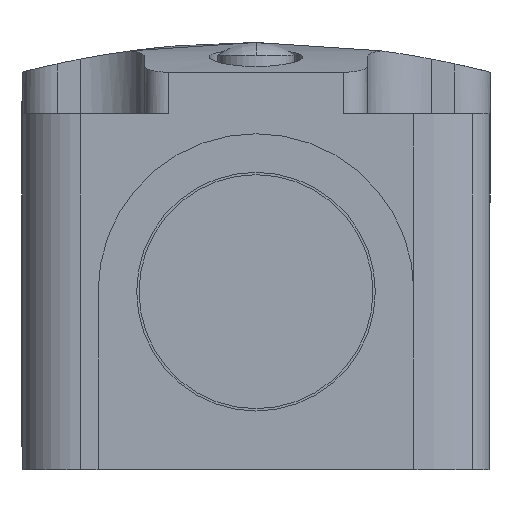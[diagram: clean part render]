
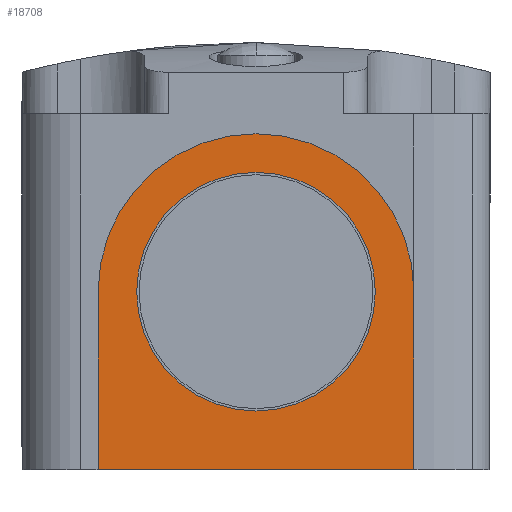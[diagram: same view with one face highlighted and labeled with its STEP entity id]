
A CAD part, front view. The second image highlights one B-rep face of the part: STEP entity #18708.
In plain terms, the highlighted planar face has unit normal (0, -1, 0).
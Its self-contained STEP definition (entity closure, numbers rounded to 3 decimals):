
#205 = FACE_OUTER_BOUND ( 'NONE', #902, .T. ) ;
#833 = LINE ( 'NONE', #14094, #8708 ) ;
#902 = EDGE_LOOP ( 'NONE', ( #10387, #8051, #11427, #17517, #8619 ) ) ;
#1192 = VERTEX_POINT ( 'NONE', #10910 ) ;
#1400 = AXIS2_PLACEMENT_3D ( 'NONE', #13389, #11948, #6315 ) ;
#2093 = CARTESIAN_POINT ( 'NONE',  ( 0., -36.2, -13.5 ) ) ;
#2541 = CARTESIAN_POINT ( 'NONE',  ( 13.5, -36.2, 15.2 ) ) ;
#2928 = CIRCLE ( 'NONE', #1400, 13.5 ) ;
#3239 = ORIENTED_EDGE ( 'NONE', *, *, #17398, .F. ) ;
#3241 = CARTESIAN_POINT ( 'NONE',  ( 13.5, -36.2, -21.3 ) ) ;
#3703 = AXIS2_PLACEMENT_3D ( 'NONE', #5933, #6122, #16139 ) ;
#3748 = CARTESIAN_POINT ( 'NONE',  ( -13.5, -36.2, 15.2 ) ) ;
#3783 = LINE ( 'NONE', #9590, #10507 ) ;
#3845 = VERTEX_POINT ( 'NONE', #3748 ) ;
#4034 = EDGE_CURVE ( 'NONE', #8348, #13821, #7289, .T. ) ;
#4420 = AXIS2_PLACEMENT_3D ( 'NONE', #18178, #12561, #10840 ) ;
#4512 = DIRECTION ( 'NONE',  ( 0., 1., 0. ) ) ;
#4605 = VERTEX_POINT ( 'NONE', #9414 ) ;
#5933 = CARTESIAN_POINT ( 'NONE',  ( -13.5, -36.2, -21.3 ) ) ;
#6122 = DIRECTION ( 'NONE',  ( 0., -1., 0. ) ) ;
#6315 = DIRECTION ( 'NONE',  ( 0., 0., -1. ) ) ;
#7289 = CIRCLE ( 'NONE', #10035, 13.5 ) ;
#7466 = AXIS2_PLACEMENT_3D ( 'NONE', #18344, #8331, #12735 ) ;
#7734 = CARTESIAN_POINT ( 'NONE',  ( 0., -36.2, 0. ) ) ;
#8051 = ORIENTED_EDGE ( 'NONE', *, *, #11475, .T. ) ;
#8331 = DIRECTION ( 'NONE',  ( 0., -1., 0. ) ) ;
#8348 = VERTEX_POINT ( 'NONE', #11328 ) ;
#8619 = ORIENTED_EDGE ( 'NONE', *, *, #11117, .F. ) ;
#8708 = VECTOR ( 'NONE', #16670, 1000. ) ;
#8972 = DIRECTION ( 'NONE',  ( 0., 0., -1. ) ) ;
#9058 = DIRECTION ( 'NONE',  ( 0., 0., 1. ) ) ;
#9414 = CARTESIAN_POINT ( 'NONE',  ( -13.5, -36.2, 0. ) ) ;
#9590 = CARTESIAN_POINT ( 'NONE',  ( -13.5, -36.2, 15.2 ) ) ;
#10035 = AXIS2_PLACEMENT_3D ( 'NONE', #7734, #4512, #8972 ) ;
#10387 = ORIENTED_EDGE ( 'NONE', *, *, #4034, .F. ) ;
#10507 = VECTOR ( 'NONE', #15409, 1000. ) ;
#10840 = DIRECTION ( 'NONE',  ( 0., 0., -1. ) ) ;
#10910 = CARTESIAN_POINT ( 'NONE',  ( 0., -36.2, 10.2 ) ) ;
#11117 = EDGE_CURVE ( 'NONE', #13821, #4605, #2928, .T. ) ;
#11292 = VERTEX_POINT ( 'NONE', #17548 ) ;
#11328 = CARTESIAN_POINT ( 'NONE',  ( 13.5, -36.2, 0. ) ) ;
#11427 = ORIENTED_EDGE ( 'NONE', *, *, #16931, .F. ) ;
#11475 = EDGE_CURVE ( 'NONE', #8348, #11923, #16311, .T. ) ;
#11923 = VERTEX_POINT ( 'NONE', #2541 ) ;
#11948 = DIRECTION ( 'NONE',  ( 0., 1., 0. ) ) ;
#12250 = EDGE_LOOP ( 'NONE', ( #17665, #3239 ) ) ;
#12338 = CIRCLE ( 'NONE', #4420, 10.2 ) ;
#12561 = DIRECTION ( 'NONE',  ( 0., -1., 0. ) ) ;
#12669 = EDGE_CURVE ( 'NONE', #4605, #3845, #833, .T. ) ;
#12735 = DIRECTION ( 'NONE',  ( 0., 0., -1. ) ) ;
#13389 = CARTESIAN_POINT ( 'NONE',  ( 0., -36.2, 0. ) ) ;
#13821 = VERTEX_POINT ( 'NONE', #2093 ) ;
#14094 = CARTESIAN_POINT ( 'NONE',  ( -13.5, -36.2, -21.3 ) ) ;
#15409 = DIRECTION ( 'NONE',  ( 1., 0., 0. ) ) ;
#16139 = DIRECTION ( 'NONE',  ( 0., 0., -1. ) ) ;
#16311 = LINE ( 'NONE', #3241, #16930 ) ;
#16318 = PLANE ( 'NONE',  #3703 ) ;
#16670 = DIRECTION ( 'NONE',  ( 0., 0., 1. ) ) ;
#16793 = EDGE_CURVE ( 'NONE', #11292, #1192, #12338, .T. ) ;
#16930 = VECTOR ( 'NONE', #9058, 1000. ) ;
#16931 = EDGE_CURVE ( 'NONE', #3845, #11923, #3783, .T. ) ;
#17398 = EDGE_CURVE ( 'NONE', #1192, #11292, #17815, .T. ) ;
#17517 = ORIENTED_EDGE ( 'NONE', *, *, #12669, .F. ) ;
#17548 = CARTESIAN_POINT ( 'NONE',  ( 0., -36.2, -10.2 ) ) ;
#17665 = ORIENTED_EDGE ( 'NONE', *, *, #16793, .F. ) ;
#17815 = CIRCLE ( 'NONE', #7466, 10.2 ) ;
#18178 = CARTESIAN_POINT ( 'NONE',  ( 0., -36.2, 0. ) ) ;
#18344 = CARTESIAN_POINT ( 'NONE',  ( 0., -36.2, 0. ) ) ;
#18708 = ADVANCED_FACE ( 'NONE', ( #18805, #205 ), #16318, .T. ) ;
#18805 = FACE_BOUND ( 'NONE', #12250, .T. ) ;
